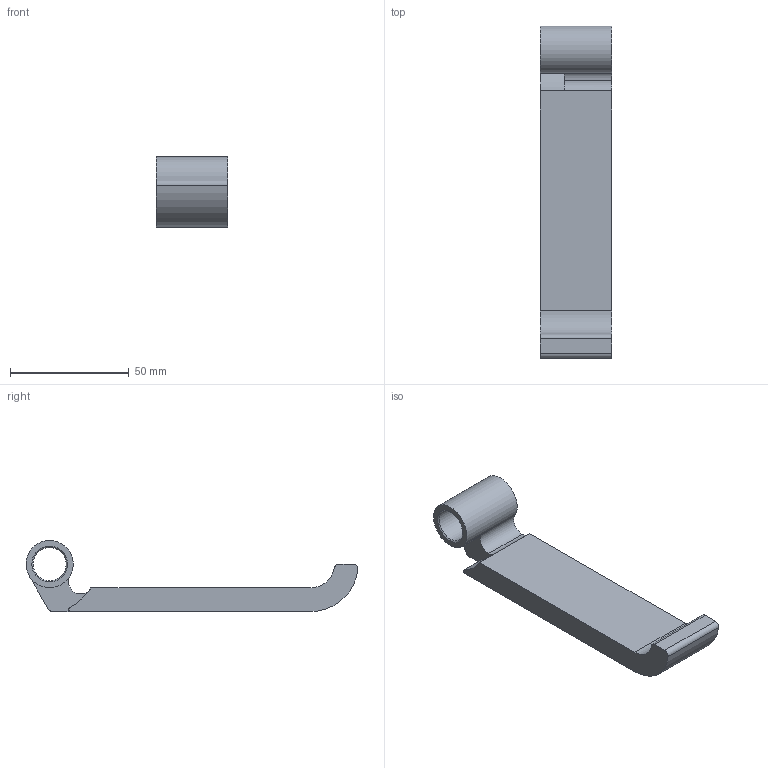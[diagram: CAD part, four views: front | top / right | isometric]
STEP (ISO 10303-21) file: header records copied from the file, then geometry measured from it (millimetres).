
FILE_DESCRIPTION(('HOOPS Exchange Step'),'2;1');
FILE_NAME('/private/var/mobile/Containers/Data/Application/E34E9B9D-13F5-4398-A6D4-3D2E6F602CF2/tmp/export/temp_export','2023-02-19T17:36:10-06:00',('mobile'),('Shapr3D Limited'),'HOOPS Exchange 2022.2','Shapr3D','Authorized');
FILE_SCHEMA( ('AUTOMOTIVE_DESIGN { 1 0 10303 214 1 1 1 1 }') );
Length unit declared in the file: millimetre
Products named in the file (1): Foot v2 Default Locking
Bounding box: 30 x 139.84 x 29.95 mm (x, y, z)
Volume: 44005.3 mm3; surface area: 14250.9 mm2
Topology: 1 solids, 1 shells, 24 faces, 65 edges, 43 vertices
Faces by surface type: cylinder 13, plane 9, cone 2
Full cylindrical faces by diameter (mm): 14 x1
Entity records: 801 total; most frequent: DIRECTION 147, CARTESIAN_POINT 133, ORIENTED_EDGE 130, EDGE_CURVE 65, AXIS2_PLACEMENT_3D 57, VERTEX_POINT 43, VECTOR 33, LINE 33
